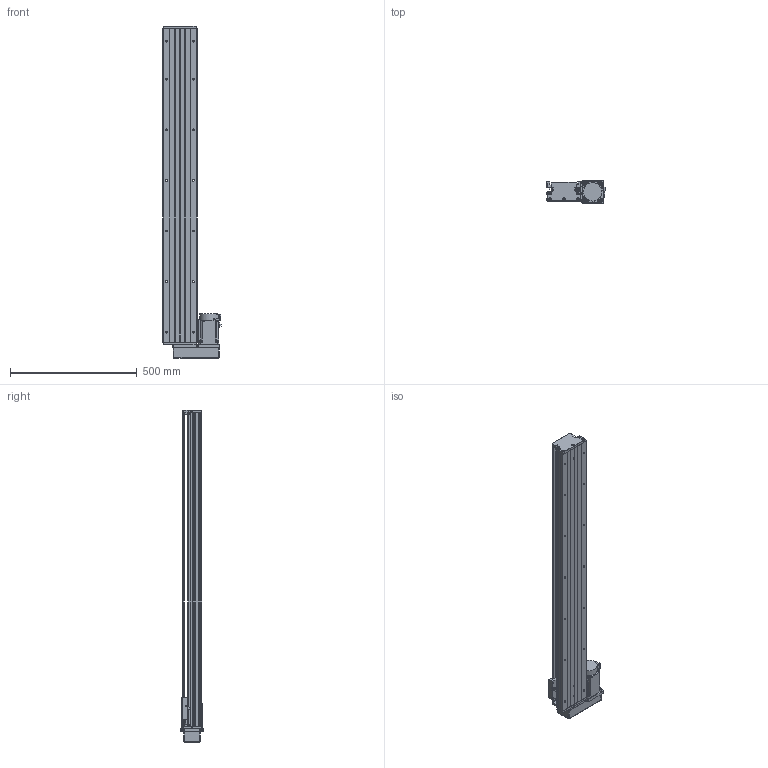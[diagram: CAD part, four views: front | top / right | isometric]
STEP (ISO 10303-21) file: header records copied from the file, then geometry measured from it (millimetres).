
FILE_DESCRIPTION (( 'STEP AP203' ), '1' );
FILE_NAME ('KTH130-1100-BR-M75-C4.step', '2023-06-30T04:54:27', ( '微软用户' ), ( '微软中国' ), 'SwSTEP 2.0', 'SolidWorks 2020', '' );
FILE_SCHEMA (( 'CONFIG_CONTROL_DESIGN' ));
Length unit declared in the file: millimetre
Products named in the file (18): GB1155-6X6; GBT77-2000 M3×3; GBT70.1 M5℅16; す晦芛蹟隊 M3℅5; GBT 70.2-M3¡Á5_M3¡Á6; GBT 70.3-M3℅8; GTH14-001_1100; CTHA60-017; hg-kn73j_-s100; KTH130-002_KTH130-002; EE_SX911P_R; CTHA86-015-3_CTHA86-015-4; KTH130-004; CTHA60-016; CTHA86-035; KTH130-005; GBT 70.1-M3℅5; KTH130-1100-BR-M75-C4
Assembly tree (49 placements, depth 2):
  KTH130-1100-BR-M75-C4
    GTH14-001_1100
    KTH130-002_KTH130-002
    KTH130-004
    KTH130-005
    GB1155-6X6  x2
    GBT70.1 M5℅16  x10
    GBT 70.2-M3¡Á5_M3¡Á6  x4
    CTHA60-017  x3
    EE_SX911P_R  x3
    CTHA60-016  x2
    GBT 70.1-M3℅5  x6
    GBT77-2000 M3×3  x6
    す晦芛蹟隊 M3℅5  x2
    GBT 70.3-M3℅8  x4
    hg-kn73j_-s100
    CTHA86-015-3_CTHA86-015-4
    CTHA86-035
Bounding box: 230.3 x 87 x 1312 mm (x, y, z)
Volume: 8022960.3 mm3; surface area: 1149707.3 mm2
Topology: 52 solids, 52 shells, 2212 faces, 5364 edges, 3359 vertices
Faces by surface type: plane 1212, cylinder 646, cone 238, torus 100, sphere 16
Entity records: 40561 total; most frequent: CARTESIAN_POINT 6822, DIRECTION 6697, ORIENTED_EDGE 6232, EDGE_CURVE 3116, AXIS2_PLACEMENT_3D 2352, LINE 1993, VERTEX_POINT 1993, VECTOR 1993
